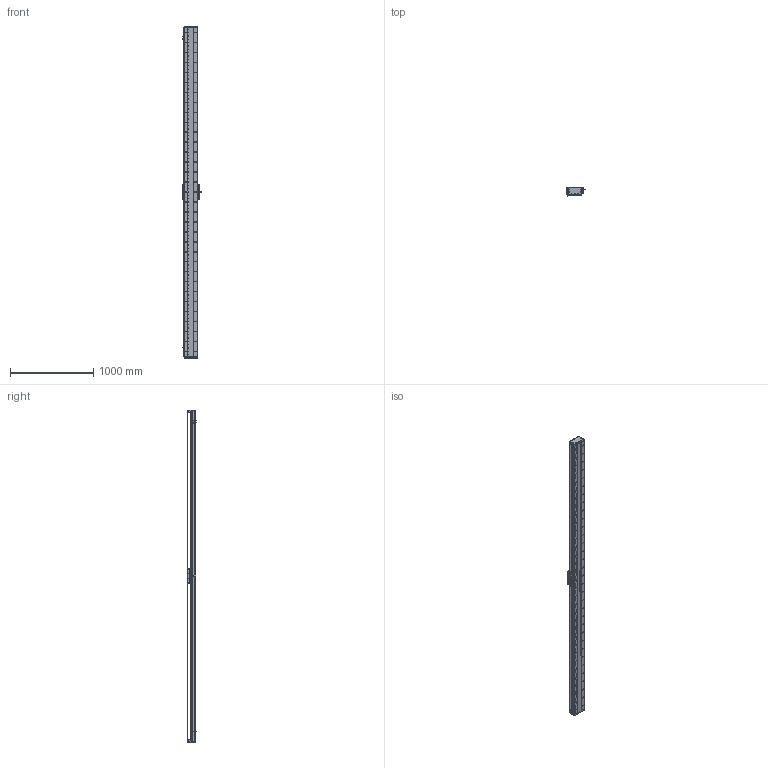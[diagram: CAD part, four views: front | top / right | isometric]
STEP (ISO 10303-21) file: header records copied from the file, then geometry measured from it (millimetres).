
FILE_DESCRIPTION (( 'STEP AP203' ), '1' );
FILE_NAME ('DA-C165-C2-T3720-C010-0.2 直线电机.STEP', '2023-05-11T08:08:47', ( '微软用户' ), ( '微软中国' ), 'SwSTEP 2.0', 'SolidWorks 2019', '' );
FILE_SCHEMA (( 'CONFIG_CONTROL_DESIGN' ));
Length unit declared in the file: millimetre
Products named in the file (18): 复件 CKM02-W075-C1C2-TP-3.0 一体电机-C2^DA-C165-C2-T-C010-0.2-N 直线电机; 葩璃 CKM01-W075-TRL^DA-C165-C2-T-C010-0.2-N 眻盄萇儂; DA-C165-C2-T3720-C010-0.2 眻盄萇儂; 复件 DA165-GYP-00 光电感应片^DA-C165-C2-T-C010-0.2-N 直线电机; 葩璃 DA95-GT-T-00^IU-CU165-L 菁釱絳寢_T; 复件 DA165-GDLK-00 钢带拉块^复件 CU165钢带组件_DA-C165-C2-T-C010-0.2-N 直线电机; 葩璃 PM-T45^DA-C165-C2-T-C010-0.2-N 眻盄萇儂; IU-CU165-L-00 菁釱_L3960; 复件 CU165钢带组件^DA-C165-C2-T-C010-0.2-N 直线电机; 复件 六角薄螺母 M3^DA-C165-C2-T-C010-0.2-N 直线电机_GB_FASTENER_NUT_STNAB M3-C; 复件 XD-U-02L 磁栅尺^DA-C165-C2-T-C010-0.2-N 直线电机_T; IU-CU165-L 菁釱絳寢; 复件 DMA-010-0.2 读数头^DA-C165-C2-T-C010-0.2-N 直线电机; 复件 DA165-GD-DG-H-00 端盖^复件 CU165钢带组件_DA-C165-C2-T-C010-0.2-N 直线电机; 珨极趙賑雄怢啣wf-C2; 复件 DA165-GD-1860-002-00 钢带盖板^复件 CU165钢带组件_DA-C165-C2-T-C010-0.2-N 直线电机; 复件 DA95-HXJ-00 缓冲橡胶^DA-C165-C2-T-C010-0.2-N 直线电机; 复件 DA165-GDYK-00 钢带压块^复件 CU165钢带组件_DA-C165-C2-T-C010-0.2-N 直线电机
Assembly tree (33 placements, depth 3):
  DA-C165-C2-T3720-C010-0.2 眻盄萇儂
    IU-CU165-L 菁釱絳寢
      IU-CU165-L-00 菁釱_L3960
      葩璃 DA95-GT-T-00^IU-CU165-L 菁釱絳寢_T  x4
    复件 XD-U-02L 磁栅尺^DA-C165-C2-T-C010-0.2-N 直线电机_T
    葩璃 PM-T45^DA-C165-C2-T-C010-0.2-N 眻盄萇儂  x3
    葩璃 CKM01-W075-TRL^DA-C165-C2-T-C010-0.2-N 眻盄萇儂
    复件 CU165钢带组件^DA-C165-C2-T-C010-0.2-N 直线电机
      复件 DA165-GD-DG-H-00 端盖^复件 CU165钢带组件_DA-C165-C2-T-C010-0.2-N 直线电机  x2
      复件 DA165-GDYK-00 钢带压块^复件 CU165钢带组件_DA-C165-C2-T-C010-0.2-N 直线电机  x2
      复件 DA165-GD-1860-002-00 钢带盖板^复件 CU165钢带组件_DA-C165-C2-T-C010-0.2-N 直线电机
      复件 DA165-GDLK-00 钢带拉块^复件 CU165钢带组件_DA-C165-C2-T-C010-0.2-N 直线电机  x2
    复件 DA95-HXJ-00 缓冲橡胶^DA-C165-C2-T-C010-0.2-N 直线电机  x4
    复件 DA165-GYP-00 光电感应片^DA-C165-C2-T-C010-0.2-N 直线电机
    复件 DMA-010-0.2 读数头^DA-C165-C2-T-C010-0.2-N 直线电机
    复件 CKM02-W075-C1C2-TP-3.0 一体电机-C2^DA-C165-C2-T-C010-0.2-N 直线电机
    复件 六角薄螺母 M3^DA-C165-C2-T-C010-0.2-N 直线电机_GB_FASTENER_NUT_STNAB M3-C  x6
    珨极趙賑雄怢啣wf-C2
Bounding box: 233 x 111.45 x 4000 mm (x, y, z)
Volume: 21164829.5 mm3; surface area: 6512536.5 mm2
Topology: 70 solids, 70 shells, 4567 faces, 13975 edges, 9015 vertices
Faces by surface type: cylinder 2941, plane 1146, cone 430, torus 46, sphere 4
Entity records: 165529 total; most frequent: CARTESIAN_POINT 47913, ORIENTED_EDGE 25122, DIRECTION 23389, EDGE_CURVE 12561, AXIS2_PLACEMENT_3D 9011, VERTEX_POINT 8251, EDGE_LOOP 5636, LINE 5367
